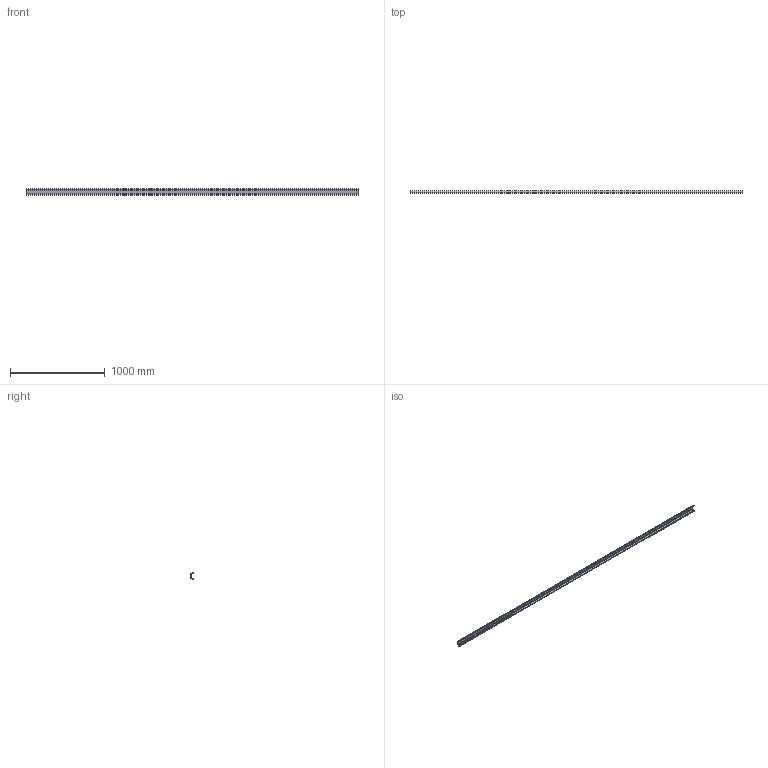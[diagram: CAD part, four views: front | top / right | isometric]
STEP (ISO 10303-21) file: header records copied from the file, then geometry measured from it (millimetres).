
FILE_DESCRIPTION( ( 'STEP AP214' ), '1' );
FILE_NAME( 'C:/Users/swati/Desktop/10-03-2016/9210130/9210130.stp', ' ', ( ' ' ), ( ' ' ), 'PSStep 15.0.47', 'PARTsolutions', ' ' );
FILE_SCHEMA( ( 'AUTOMOTIVE_DESIGN { 1 0 10303 214 1 1 1 1 }' ) );
Length unit declared in the file: millimetre
Products named in the file (2): 95 ; _
Assembly tree (1 placements, depth 2):
  95 
    _
Bounding box: 3500 x 23 x 70 mm (x, y, z)
Volume: 607014 mm3; surface area: 801345.3 mm2
Topology: 1 solids, 1 shells, 38 faces, 108 edges, 72 vertices
Faces by surface type: plane 32, cylinder 6
Entity records: 1566 total; most frequent: CARTESIAN_POINT 220, ORIENTED_EDGE 216, DIRECTION 200, EDGE_CURVE 108, LINE 96, VECTOR 96, VERTEX_POINT 72, AXIS2_PLACEMENT_3D 52
